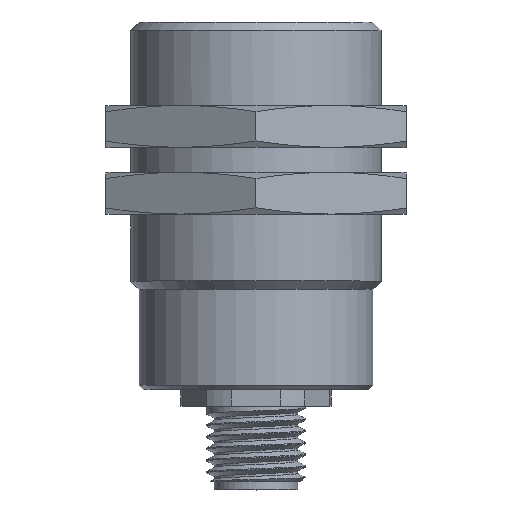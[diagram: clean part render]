
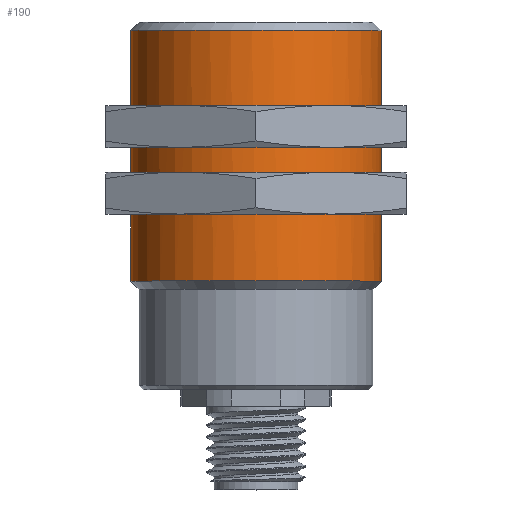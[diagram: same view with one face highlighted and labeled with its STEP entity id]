
A CAD part, top view. The second image highlights one B-rep face of the part: STEP entity #190.
In plain terms, the highlighted cylindrical face has radius 15 mm (diameter 30 mm), a full revolution.
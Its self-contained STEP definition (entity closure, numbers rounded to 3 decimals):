
#190=ADVANCED_FACE('',(#292,#293),#274,.T.);
#274=CYLINDRICAL_SURFACE('',#1260,15.);
#292=FACE_BOUND('',#323,.T.);
#293=FACE_BOUND('',#324,.T.);
#323=EDGE_LOOP('',(#554,#555,#556,#557));
#324=EDGE_LOOP('',(#558));
#424=CIRCLE('',#1258,15.);
#425=CIRCLE('',#1259,15.);
#486=LINE('',#1736,#520);
#487=LINE('',#1740,#521);
#520=VECTOR('',#1404,1.);
#521=VECTOR('',#1407,1.);
#554=ORIENTED_EDGE('',*,*,#1009,.F.);
#555=ORIENTED_EDGE('',*,*,#1010,.T.);
#556=ORIENTED_EDGE('',*,*,#1011,.F.);
#557=ORIENTED_EDGE('',*,*,#1012,.T.);
#558=ORIENTED_EDGE('',*,*,#1013,.T.);
#898=VERTEX_POINT('',#1734);
#899=VERTEX_POINT('',#1735);
#900=VERTEX_POINT('',#1737);
#901=VERTEX_POINT('',#1739);
#902=VERTEX_POINT('',#1742);
#1009=EDGE_CURVE('',#898,#899,#1181,.T.);
#1010=EDGE_CURVE('',#898,#900,#486,.T.);
#1011=EDGE_CURVE('',#901,#900,#424,.T.);
#1012=EDGE_CURVE('',#901,#899,#487,.T.);
#1013=EDGE_CURVE('',#902,#902,#425,.T.);
#1181=B_SPLINE_CURVE_WITH_KNOTS('',3,(#1727,#1728,#1729,#1730,#1731,#1732,
#1733),.UNSPECIFIED.,.F.,.F.,(4,3,4),(0.,0.5,1.),.UNSPECIFIED.);
#1258=AXIS2_PLACEMENT_3D('',#1738,#1405,#1406);
#1259=AXIS2_PLACEMENT_3D('',#1741,#1408,#1409);
#1260=AXIS2_PLACEMENT_3D('',#1743,#1410,#1411);
#1404=DIRECTION('',(0.,1.,0.));
#1405=DIRECTION('',(0.,1.,0.));
#1406=DIRECTION('',(-1.,0.,0.));
#1407=DIRECTION('',(0.,-1.,0.));
#1408=DIRECTION('',(0.,1.,0.));
#1409=DIRECTION('',(-1.,0.,0.));
#1410=DIRECTION('',(0.,1.,0.));
#1411=DIRECTION('',(-1.,0.,0.));
#1727=CARTESIAN_POINT('',(14.967,-7.821,1.));
#1728=CARTESIAN_POINT('',(14.989,-7.874,0.67));
#1729=CARTESIAN_POINT('',(15.,-7.9,0.335));
#1730=CARTESIAN_POINT('',(15.,-7.9,0.));
#1731=CARTESIAN_POINT('',(15.,-7.9,-0.335));
#1732=CARTESIAN_POINT('',(14.989,-7.874,-0.67));
#1733=CARTESIAN_POINT('',(14.967,-7.821,-1.));
#1734=CARTESIAN_POINT('',(14.967,-7.821,1.));
#1735=CARTESIAN_POINT('',(14.967,-7.821,-1.));
#1736=CARTESIAN_POINT('',(14.967,-119.298,1.));
#1737=CARTESIAN_POINT('',(14.967,-1.,1.));
#1738=CARTESIAN_POINT('',(0.,-1.,0.));
#1739=CARTESIAN_POINT('',(14.967,-1.,-1.));
#1740=CARTESIAN_POINT('',(14.967,-119.298,-1.));
#1741=CARTESIAN_POINT('',(0.,-31.,0.));
#1742=CARTESIAN_POINT('',(-15.,-31.,0.));
#1743=CARTESIAN_POINT('',(0.,-119.298,0.));
